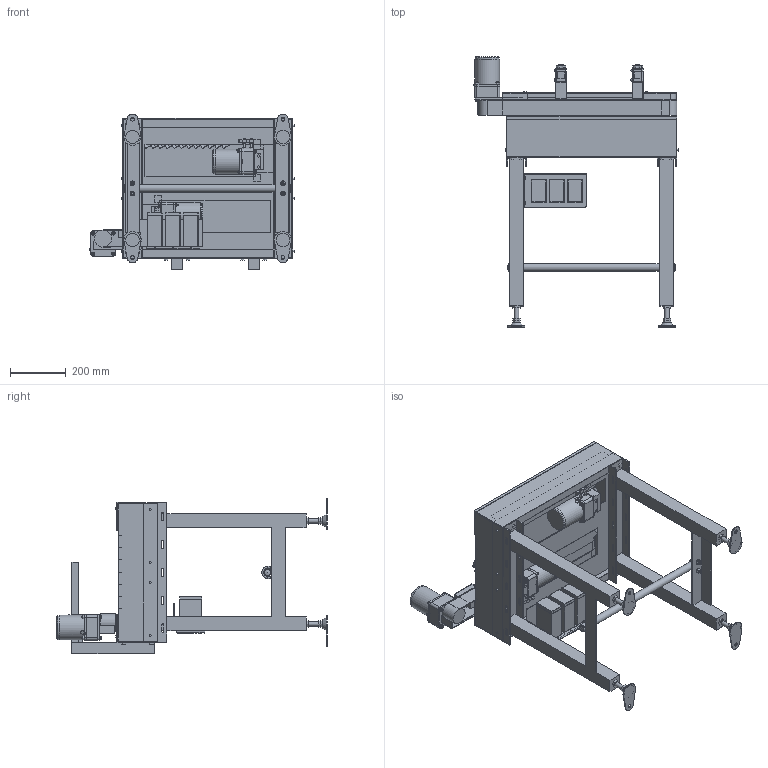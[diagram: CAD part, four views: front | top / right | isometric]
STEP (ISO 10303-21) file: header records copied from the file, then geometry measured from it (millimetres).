
FILE_DESCRIPTION (( 'STEP AP214' ), '1' );
FILE_NAME ('SGA-300-R-D.STEP', '2022-04-12T01:39:23', ( '' ), ( '' ), 'SwSTEP 2.0', 'SolidWorks 2017', '' );
FILE_SCHEMA (( 'AUTOMOTIVE_DESIGN' ));
Length unit declared in the file: millimetre
Products named in the file (18): SWD-SGA-S-原動部; SWD-AJ-020(75mm); SWD-U-010 Assy_固定板t6; SWD-UBM540-403-E2+5GN3-18K; SWD-SGA-S-端囂啞; SWD-UBM540-403-E2+5GN3-18K_t4; SWD-SGA-S-娃敖腾把_300暆; VFD001L21A_WEB図; SWD-SGA-S-徊霓娃詭x帩; SWD-SGA-S-脚_300幅; SK-34-WH; SGA-300-R-D; SWD-SGA-S-ｻｲﾄﾞﾍﾞﾔ_300出口側飛出し; SWD-SGA-衛動葀杺_590; SWD-SGA-S-郯讜擾300暆; SWD-SGA-S-端囂啞枌袡紕; SWD-SGA-S-ﾃｰｸｱｯﾌﾟ; SWD-SGA-S-原動カバー
Assembly tree (27 placements, depth 3):
  SGA-300-R-D
    SWD-SGA-S-娃敖腾把_300暆
    SWD-SGA-S-郯讜擾300暆
    SWD-SGA-S-脚_300幅  x2
    SWD-AJ-020(75mm)  x4
    SWD-U-010 Assy_固定板t6  x2
    SWD-SGA-衛動葀杺_590
    SWD-SGA-S-原動部  x2
      SWD-UBM540-403-E2+5GN3-18K_t4
      SWD-SGA-S-原動カバー
      SWD-SGA-S-ﾃｰｸｱｯﾌﾟ
    SWD-SGA-S-端囂啞
      SWD-SGA-S-端囂啞枌袡紕
      VFD001L21A_WEB図  x3
    SWD-SGA-S-徊霓娃詭x帩  x2
    SK-34-WH  x2
    SWD-SGA-S-ｻｲﾄﾞﾍﾞﾔ_300出口側飛出し
    SWD-UBM540-403-E2+5GN3-18K
Bounding box: 734.13 x 969.4 x 560 mm (x, y, z)
Volume: 20165167.4 mm3; surface area: 4212765.2 mm2
Topology: 81 solids, 82 shells, 2566 faces, 6349 edges, 4101 vertices
Faces by surface type: plane 1759, cylinder 525, cone 161, bspline 64, torus 34, sphere 23
Full cylindrical faces by diameter (mm): 2 x3, 4.5 x6, 5 x14, 5.5 x3, 6 x34, 6.5 x24, 6.6 x12, 7 x4, 8 x10, 8.49 x3, 9 x8, 10 x12, 10.5 x1, 11.5 x2, 12 x3, 12.2 x2, 12.5 x12, 13 x4, 16 x10, 17 x4, 20 x1, 22 x1, 27.2 x1, 28 x2, 36 x3, 40 x4, 50 x2, 83 x3, 84 x3, 86.3 x3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
Entity records: 56567 total; most frequent: CARTESIAN_POINT 10215, ORIENTED_EDGE 7882, DIRECTION 7834, EDGE_CURVE 3941, VECTOR 2978, LINE 2978, VERTEX_POINT 2671, AXIS2_PLACEMENT_3D 2428
